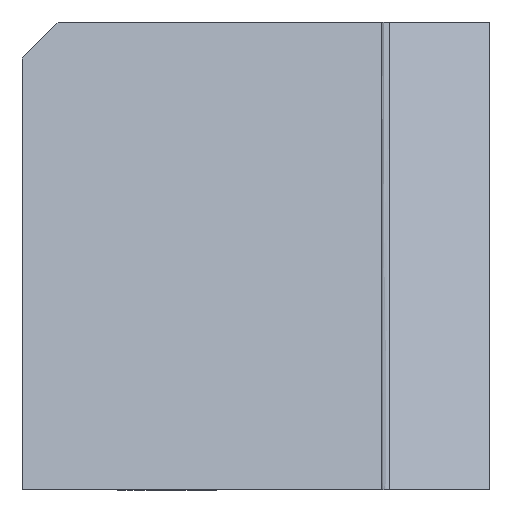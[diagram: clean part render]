
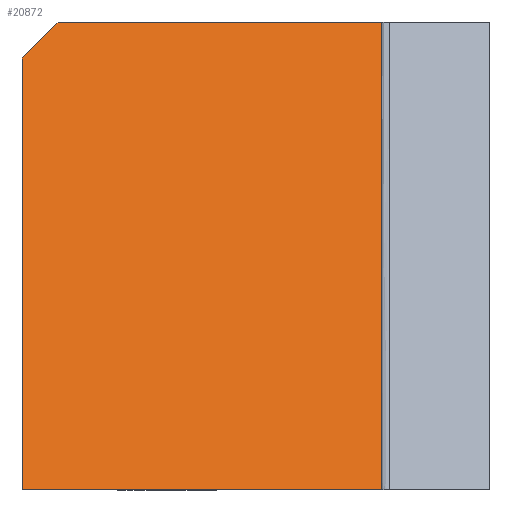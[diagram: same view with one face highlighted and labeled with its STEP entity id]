
A CAD part, left-side view. The second image highlights one B-rep face of the part: STEP entity #20872.
In plain terms, the highlighted planar face has unit normal (-0.943, 0, 0.334).
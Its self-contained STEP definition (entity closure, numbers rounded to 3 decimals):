
#1951=ORIENTED_EDGE('',*,*,#6467,.F.);
#1952=ORIENTED_EDGE('',*,*,#6468,.T.);
#1953=ORIENTED_EDGE('',*,*,#5420,.F.);
#1954=ORIENTED_EDGE('',*,*,#6469,.F.);
#1955=ORIENTED_EDGE('',*,*,#6014,.F.);
#5420=EDGE_CURVE('',#7678,#7679,#9159,.T.);
#6014=EDGE_CURVE('',#8271,#8273,#9564,.T.);
#6467=EDGE_CURVE('',#8725,#8271,#9867,.T.);
#6468=EDGE_CURVE('',#8725,#7679,#9868,.T.);
#6469=EDGE_CURVE('',#8273,#7678,#9869,.T.);
#7678=VERTEX_POINT('',#27139);
#7679=VERTEX_POINT('',#27140);
#8271=VERTEX_POINT('',#28804);
#8273=VERTEX_POINT('',#28807);
#8725=VERTEX_POINT('',#29713);
#9159=LINE('',#27138,#10923);
#9564=LINE('',#28806,#11328);
#9867=LINE('',#29712,#11631);
#9868=LINE('',#29714,#11632);
#9869=LINE('',#29715,#11633);
#10923=VECTOR('',#22776,1000.);
#11328=VECTOR('',#23503,1000.);
#11631=VECTOR('',#24108,1000.);
#11632=VECTOR('',#24109,1000.);
#11633=VECTOR('',#24110,1000.);
#12651=EDGE_LOOP('',(#1951,#1952,#1953,#1954,#1955));
#13595=FACE_BOUND('',#12651,.T.);
#14477=PLANE('',#22029);
#20872=ADVANCED_FACE('',(#13595),#14477,.T.);
#22029=AXIS2_PLACEMENT_3D('',#29711,#24106,#24107);
#22776=DIRECTION('',(0.,1.,0.));
#23503=DIRECTION('',(0.,-1.,0.));
#24106=DIRECTION('',(-0.942,0.,0.334));
#24107=DIRECTION('',(0.,1.,0.));
#24108=DIRECTION('',(0.243,-0.686,0.686));
#24109=DIRECTION('',(-0.334,0.,-0.942));
#24110=DIRECTION('',(-0.334,0.,-0.942));
#27138=CARTESIAN_POINT('',(-13.832,0.,-39.));
#27139=CARTESIAN_POINT('',(-13.832,-30.,-39.));
#27140=CARTESIAN_POINT('',(-13.832,0.,-39.));
#28804=CARTESIAN_POINT('',(0.,-3.,0.));
#28806=CARTESIAN_POINT('',(0.,0.,0.));
#28807=CARTESIAN_POINT('',(0.,-30.,0.));
#29711=CARTESIAN_POINT('',(0.,-30.,0.));
#29712=CARTESIAN_POINT('',(2.101,-8.923,5.923));
#29713=CARTESIAN_POINT('',(-1.064,0.,-3.));
#29714=CARTESIAN_POINT('',(0.,0.,0.));
#29715=CARTESIAN_POINT('',(0.,-30.,0.));
